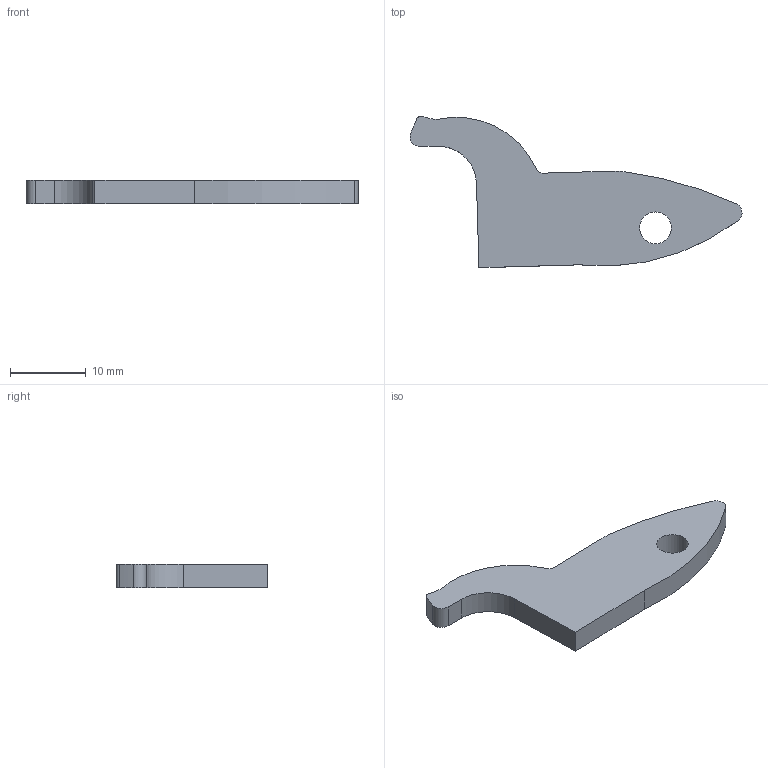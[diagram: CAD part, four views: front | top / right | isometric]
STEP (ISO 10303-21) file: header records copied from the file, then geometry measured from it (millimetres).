
FILE_DESCRIPTION(/* description */ ('STEP AP242','CAx-IF Rec.Pracs.---Representation and Presentation of Product Manufacturing Information (PMI)---4.0---2014-10-13','CAx-IF Rec.Pracs.---3D Tessellated Geometry---0.4---2014-09-14','2;1'),/* implementation_level */ '2;1');
FILE_NAME(/* name */ '61ff067423e0087fa9c7d243',/* time_stamp */ '2022-02-05T23:21:25+00:00',/* author */ (''),/* organization */ (''),/* preprocessor_version */ 'ST-DEVELOPER v18.101',/* originating_system */ ' ',/* authorisation */ ' ');
FILE_SCHEMA (('AP242_MANAGED_MODEL_BASED_3D_ENGINEERING_MIM_LF { 1 0 10303 442 1 1 4 }'));
Length unit declared in the file: metre
Products named in the file (1): Plate
Bounding box: 43.7 x 19.94 x 3.05 mm (x, y, z)
Volume: 1297.8 mm3; surface area: 1226.4 mm2
Topology: 1 solids, 1 shells, 19 faces, 51 edges, 34 vertices
Faces by surface type: cylinder 12, plane 7
Full cylindrical faces by diameter (mm): 4.2 x1
Entity records: 631 total; most frequent: DIRECTION 113, CARTESIAN_POINT 107, ORIENTED_EDGE 100, EDGE_CURVE 50, AXIS2_PLACEMENT_3D 44, VERTEX_POINT 34, LINE 25, VECTOR 25
